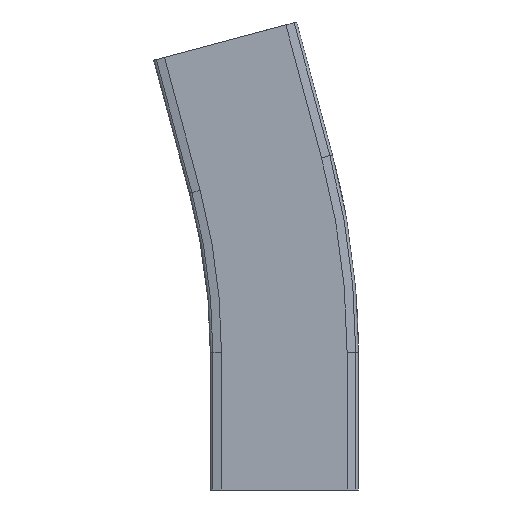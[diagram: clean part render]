
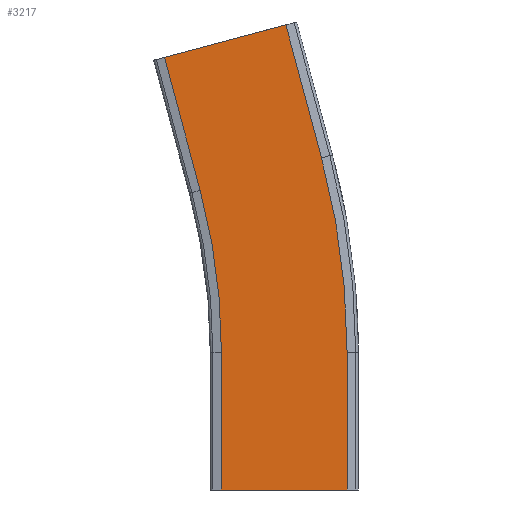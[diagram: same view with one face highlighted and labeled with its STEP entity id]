
A CAD part, front view. The second image highlights one B-rep face of the part: STEP entity #3217.
In plain terms, the highlighted planar face has unit normal (0, -1, 0).
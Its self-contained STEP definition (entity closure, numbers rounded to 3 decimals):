
#327=FACE_OUTER_BOUND('',#499,.T.);
#499=EDGE_LOOP('',(#2925,#2926,#2927,#2928,#2929,#2930,#2931,#2932));
#577=CIRCLE('',#3458,436.5);
#580=CIRCLE('',#3464,363.5);
#894=LINE('',#5537,#1236);
#899=LINE('',#5546,#1241);
#901=LINE('',#5551,#1243);
#916=LINE('',#5591,#1258);
#921=LINE('',#5602,#1263);
#922=LINE('',#5604,#1264);
#1236=VECTOR('',#4203,10.);
#1241=VECTOR('',#4210,10.);
#1243=VECTOR('',#4214,10.);
#1258=VECTOR('',#4255,10.);
#1263=VECTOR('',#4268,10.);
#1264=VECTOR('',#4271,10.);
#1544=VERTEX_POINT('',#5534);
#1545=VERTEX_POINT('',#5536);
#1548=VERTEX_POINT('',#5543);
#1549=VERTEX_POINT('',#5548);
#1559=VERTEX_POINT('',#5574);
#1561=VERTEX_POINT('',#5584);
#1562=VERTEX_POINT('',#5589);
#1564=VERTEX_POINT('',#5600);
#1988=EDGE_CURVE('',#1545,#1544,#894,.T.);
#1993=EDGE_CURVE('',#1545,#1548,#899,.T.);
#1995=EDGE_CURVE('',#1544,#1549,#901,.T.);
#2008=EDGE_CURVE('',#1549,#1559,#577,.T.);
#2014=EDGE_CURVE('',#1548,#1561,#580,.T.);
#2016=EDGE_CURVE('',#1559,#1562,#916,.T.);
#2021=EDGE_CURVE('',#1561,#1564,#921,.T.);
#2022=EDGE_CURVE('',#1562,#1564,#922,.T.);
#2925=ORIENTED_EDGE('',*,*,#2022,.T.);
#2926=ORIENTED_EDGE('',*,*,#2021,.F.);
#2927=ORIENTED_EDGE('',*,*,#2014,.F.);
#2928=ORIENTED_EDGE('',*,*,#1993,.F.);
#2929=ORIENTED_EDGE('',*,*,#1988,.T.);
#2930=ORIENTED_EDGE('',*,*,#1995,.T.);
#2931=ORIENTED_EDGE('',*,*,#2008,.T.);
#2932=ORIENTED_EDGE('',*,*,#2016,.T.);
#3050=PLANE('',#3470);
#3217=ADVANCED_FACE('',(#327),#3050,.T.);
#3458=AXIS2_PLACEMENT_3D('',#5576,#4235,#4236);
#3464=AXIS2_PLACEMENT_3D('',#5587,#4250,#4251);
#3470=AXIS2_PLACEMENT_3D('',#5603,#4269,#4270);
#4203=DIRECTION('',(1.,0.,0.));
#4210=DIRECTION('',(0.,0.,1.));
#4214=DIRECTION('',(0.,0.,1.));
#4235=DIRECTION('center_axis',(0.,-1.,0.));
#4236=DIRECTION('ref_axis',(1.,0.,0.));
#4250=DIRECTION('center_axis',(0.,-1.,0.));
#4251=DIRECTION('ref_axis',(1.,0.,0.));
#4255=DIRECTION('',(-0.259,0.,0.966));
#4268=DIRECTION('',(-0.259,0.,0.966));
#4269=DIRECTION('center_axis',(0.,-1.,0.));
#4270=DIRECTION('ref_axis',(0.259,0.,-0.966));
#4271=DIRECTION('',(-0.966,0.,-0.259));
#5534=CARTESIAN_POINT('',(36.5,-11.,0.));
#5536=CARTESIAN_POINT('',(-36.5,-11.,0.));
#5537=CARTESIAN_POINT('',(-36.5,-11.,0.));
#5543=CARTESIAN_POINT('',(-36.5,-11.,80.));
#5546=CARTESIAN_POINT('',(-36.5,-11.,0.));
#5548=CARTESIAN_POINT('',(36.5,-11.,80.));
#5551=CARTESIAN_POINT('',(36.5,-11.,0.));
#5574=CARTESIAN_POINT('',(21.627,-11.,192.975));
#5576=CARTESIAN_POINT('Origin',(-400.,-11.,80.));
#5584=CARTESIAN_POINT('',(-48.886,-11.,174.081));
#5587=CARTESIAN_POINT('Origin',(-400.,-11.,80.));
#5589=CARTESIAN_POINT('',(0.921,-11.,270.249));
#5591=CARTESIAN_POINT('',(69.436,-11.,14.549));
#5600=CARTESIAN_POINT('',(-69.591,-11.,251.355));
#5602=CARTESIAN_POINT('',(-1.077,-11.,-4.345));
#5603=CARTESIAN_POINT('Origin',(69.436,-11.,14.549));
#5604=CARTESIAN_POINT('',(-15.258,-11.,265.913));
